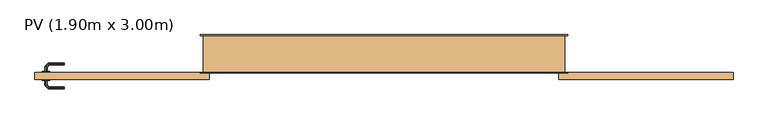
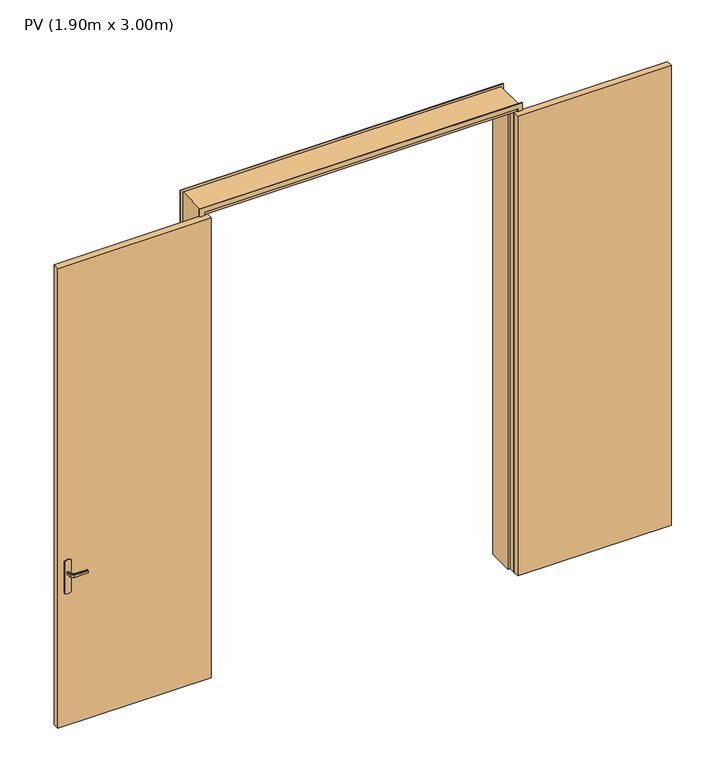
"""IFC4 building model written with IfcOpenShell, lengths in millimetres: door geometry, PV (1.90m x 3.00m)."""

from ifc_helpers import new_model, si_unit, frame, origin, origin_with_axes, place, context, project, spatial, polyline, outline, extrude, faceted_brep, source, transform, mapped, element, save


def pv_1_90m_x_3_00m_2e6285c9(model_context):
    return source(origin(), model_context, "Body", "SolidModel", [
        extrude(outline(polyline([(0.0, 2055.0), (3060.0, 2055.0), (3060.0, 55.0), (0.0, 55.0), (0.0, 85.0), (3030.0, 85.0), (3030.0, 2025.0), (0.0, 2025.0), (0.0, 2055.0)])), frame((0.0, 200.0, 0.0), z_axis=(0.0, 1.0, 0.0), x_axis=(0.0, 0.0, 1.0)), (0.0, 0.0, 1.0), 5.0),
        faceted_brep([(-782.9747013, -45.0, 992.2195592), (-787.0252987, -45.0, 992.2195592), (-791.0, -45.0, 993.0), (-791.0, -45.0, 1007.0), (-787.0252987, -45.0, 1007.7804408), (-782.9747013, -45.0, 1007.7804408), (-779.0, -45.0, 1007.0), (-779.0, -45.0, 993.0), (-779.0, -67.4852045, 1007.0), (-779.0, -67.4852045, 993.0), (-782.9747013, -69.1315797, 1007.7804408), (-787.0252987, -70.8093921, 1007.7804408), (-770.8389062, -86.9957845, 1007.7804408), (-769.1610938, -82.9451872, 1007.7804408), (-791.0, -72.4557673, 1007.0), (-791.0, -72.4557673, 993.0), (-787.0252987, -70.8093921, 992.2195592), (-782.9747013, -69.1315797, 992.2195592), (-769.1610938, -82.9451872, 992.2195592), (-770.8389062, -86.9957845, 992.2195592), (-767.5147186, -78.9704859, 1007.0), (-767.5147186, -78.9704859, 993.0), (-772.4852814, -90.9704859, 1007.0), (-772.4852814, -90.9704859, 993.0), (-684.9542163, -82.9451872, 1007.7804408), (-684.9542163, -86.9957845, 1007.7804408), (-684.9542163, -90.9704859, 1007.0), (-684.9542163, -90.9704859, 993.0), (-684.9542163, -86.9957845, 992.2195592), (-684.9542163, -82.9451872, 992.2195592), (-684.9542163, -78.9704859, 993.0), (-684.9542163, -78.9704859, 1007.0), (-726.2344675, -78.9704859, 1007.0), (-726.2344794, -78.9704859, 993.0), (-727.0576551, -84.9704859, 1007.8786868), (-732.5547942, -90.9704859, 1007.0), (-732.5547957, -90.9704859, 993.0), (-727.0576549, -84.9704858, 992.1213132)], [[[0, 1, 2, 3, 4, 5, 6, 7]], [[8, 9, 7, 6]], [[5, 10, 8, 6]], [[5, 4, 11, 12, 13, 10]], [[3, 14, 11, 4]], [[14, 3, 2, 15]], [[2, 1, 16, 15]], [[1, 0, 17, 18, 19, 16]], [[0, 7, 9, 17]], [[20, 21, 9, 8]], [[8, 10, 13, 20]], [[14, 22, 12, 11]], [[23, 22, 14, 15]], [[15, 16, 19, 23]], [[17, 9, 21, 18]], [[24, 25, 26, 27, 28, 29, 30, 31]], [[21, 20, 32, 31, 30, 33]], [[34, 24, 32]], [[25, 34, 35]], [[13, 32, 20]], [[24, 31, 32]], [[25, 35, 26]], [[35, 12, 22]], [[34, 12, 35]], [[34, 13, 12]], [[34, 32, 13]], [[24, 34, 25]], [[22, 23, 36, 27, 26, 35]], [[37, 28, 36]], [[36, 28, 27]], [[36, 23, 19]], [[18, 33, 37]], [[33, 18, 21]], [[30, 29, 33]], [[37, 29, 28]], [[37, 33, 29]], [[37, 36, 19]], [[18, 37, 19]]]),
        extrude(outline(polyline([(1080.0, -805.0), (870.0, -805.0), (866.0039831, -795.3527618), (864.6410162, -785.0), (866.0039831, -774.6472382), (870.0, -765.0), (1080.0, -765.0), (1083.9960169, -774.6472382), (1085.3589838, -785.0), (1083.9960169, -795.3527618), (1080.0, -805.0)])), frame((0.0, 0.0, 0.0), z_axis=(0.0, 1.0, 0.0), x_axis=(0.0, 0.0, 1.0)), (0.0, 0.0, 1.0), 5.0),
        extrude(outline(polyline([(2955.0, -40.0), (2005.0, -40.0), (2005.0, 0.0), (2955.0, 0.0), (2955.0, -40.0)])), origin_with_axes(), (0.0, 0.0, 1.0), 3010.0),
        extrude(outline(polyline([(0.0, 2055.0), (3060.0, 2055.0), (3060.0, 55.0), (0.0, 55.0), (0.0, 85.0), (3030.0, 85.0), (3030.0, 2025.0), (0.0, 2025.0), (0.0, 2055.0)])), frame((0.0, -5.0, 0.0), z_axis=(0.0, 1.0, 0.0), x_axis=(0.0, 0.0, 1.0)), (0.0, 0.0, 1.0), 5.0),
        extrude(outline(polyline([(1085.3589838, -785.0), (1083.9960169, -795.3527618), (1080.0, -805.0), (870.0, -805.0), (866.0039831, -795.3527618), (864.6410162, -785.0), (866.0039831, -774.6472382), (870.0, -765.0), (1080.0, -765.0), (1083.9960169, -774.6472382), (1085.3589838, -785.0)])), frame((0.0, -45.0, 0.0), z_axis=(0.0, 1.0, 0.0), x_axis=(0.0, 0.0, 1.0)), (0.0, 0.0, 1.0), 5.0),
        faceted_brep([(2040.0, 0.0, 0.0), (2005.0, 0.0, 0.0), (2005.0, 40.0, 0.0), (1990.0, 40.0, 0.0), (1990.0, 200.0, 0.0), (2040.0, 200.0, 0.0), (2040.0, 200.0, 3045.0), (2040.0, 0.0, 3045.0), (1990.0, 200.0, 2995.0), (120.0, 200.0, 2995.0), (120.0, 200.0, 0.0), (70.0, 200.0, 0.0), (70.0, 200.0, 3045.0), (1990.0, 40.0, 2995.0), (2005.0, 40.0, 3010.0), (105.0, 40.0, 3010.0), (105.0, 40.0, 0.0), (120.0, 40.0, 0.0), (120.0, 40.0, 2995.0), (2005.0, 0.0, 3010.0), (70.0, 0.0, 3045.0), (70.0, 0.0, 0.0), (105.0, 0.0, 0.0), (105.0, 0.0, 3010.0)], [[[0, 1, 2, 3, 4, 5]], [[5, 6, 7, 0]], [[4, 8, 9, 10, 11, 12, 6, 5]], [[3, 13, 8, 4]], [[2, 14, 15, 16, 17, 18, 13, 3]], [[1, 19, 14, 2]], [[0, 7, 20, 21, 22, 23, 19, 1]], [[12, 11, 21, 20]], [[21, 11, 10, 17, 16, 22]], [[18, 17, 10, 9]], [[23, 22, 16, 15]], [[6, 12, 20, 7]], [[13, 18, 9, 8]], [[19, 23, 15, 14]]]),
        faceted_brep([(-782.9747013, 5.0, 1007.7804408), (-787.0252987, 5.0, 1007.7804408), (-791.0, 5.0, 1007.0), (-791.0, 5.0, 993.0), (-787.0252987, 5.0, 992.2195592), (-782.9747013, 5.0, 992.2195592), (-779.0, 5.0, 993.0), (-779.0, 5.0, 1007.0), (-787.0252987, 31.0045755, 1007.7804408), (-791.0, 32.6509507, 1007.0), (-782.9747013, 29.3267632, 1007.7804408), (-769.2986025, 43.002862, 1007.7804408), (-770.9764148, 47.0534593, 1007.7804408), (-779.0, 27.680388, 1007.0), (-779.0, 27.680388, 993.0), (-782.9747013, 29.3267632, 992.2195592), (-787.0252987, 31.0045755, 992.2195592), (-770.9764148, 47.0534593, 992.2195592), (-769.2986025, 43.002862, 992.2195592), (-791.0, 32.6509507, 993.0), (-772.62279, 51.0281607, 1007.0), (-767.6522273, 39.0281607, 1007.0), (-767.6522273, 39.0281607, 993.0), (-772.62279, 51.0281607, 993.0), (-684.9813594, 51.0281607, 1007.0), (-684.9813594, 47.0534593, 1007.7804408), (-684.9813594, 43.002862, 1007.7804408), (-684.9813594, 39.0281607, 1007.0), (-684.9813594, 39.0281607, 993.0), (-684.9813594, 43.002862, 992.2195592), (-684.9813594, 47.0534593, 992.2195592), (-684.9813594, 51.0281607, 993.0), (-727.1399809, 45.0281607, 1007.8786868), (-732.6923028, 51.0281607, 1007.0), (-726.3167933, 39.0281607, 1007.0), (-726.3167933, 39.0281607, 993.0), (-727.1399811, 45.0281608, 992.1213132), (-732.6923104, 51.0281607, 993.0)], [[[0, 1, 2, 3, 4, 5, 6, 7]], [[2, 1, 8, 9]], [[1, 0, 10, 11, 12, 8]], [[0, 7, 13, 10]], [[14, 13, 7, 6]], [[5, 15, 14, 6]], [[5, 4, 16, 17, 18, 15]], [[3, 19, 16, 4]], [[9, 19, 3, 2]], [[9, 8, 12, 20]], [[10, 13, 21, 11]], [[22, 21, 13, 14]], [[14, 15, 18, 22]], [[16, 19, 23, 17]], [[20, 23, 19, 9]], [[24, 25, 26, 27, 28, 29, 30, 31]], [[32, 25, 33]], [[33, 25, 24]], [[33, 20, 12]], [[11, 34, 32]], [[34, 11, 21]], [[27, 26, 34]], [[32, 26, 25]], [[32, 34, 26]], [[32, 33, 12]], [[11, 32, 12]], [[21, 22, 35, 28, 27, 34]], [[36, 29, 35]], [[30, 36, 37]], [[18, 35, 22]], [[29, 28, 35]], [[30, 37, 31]], [[37, 17, 23]], [[36, 17, 37]], [[36, 18, 17]], [[36, 35, 18]], [[29, 36, 30]], [[23, 20, 33, 24, 31, 37]]]),
        extrude(outline(polyline([(-845.0, -40.0), (-845.0, 0.0), (105.0, 0.0), (105.0, -40.0), (-845.0, -40.0)])), origin_with_axes(), (0.0, 0.0, 1.0), 3010.0),
    ])


if __name__ == "__main__":
    model = new_model("IFC4")
    model_context = context("Model", 3, world=origin())
    ifc_project = project(units=[si_unit("LENGTHUNIT", "METRE", prefix="MILLI")], contexts=[model_context])
    site = spatial("IfcSite", under=ifc_project)
    building = spatial("IfcBuilding", under=site)
    placement = place(None, origin())
    pv_1_90m_x_3_00m_shape = pv_1_90m_x_3_00m_2e6285c9(model_context)
    element("IfcDoor", 1, ObjectType="PV (1.90m x 3.00m)", at=placement, inside=building, context=model_context, shape_type="MappedRepresentation", body=[
        mapped(pv_1_90m_x_3_00m_shape, transform((0.0, 0.0, 0.0), x_axis=(1.0, 0.0, 0.0), y_axis=(0.0, 1.0, 0.0), z_axis=(0.0, 0.0, 1.0))),
    ])
    save(model, "model.ifc")
